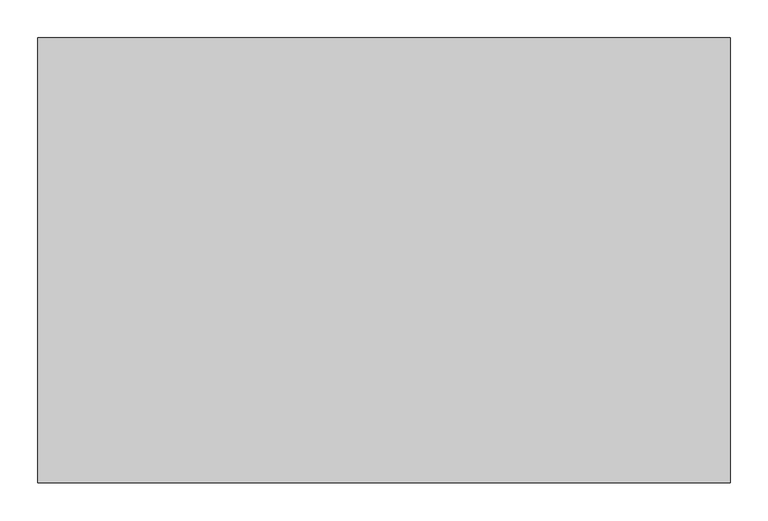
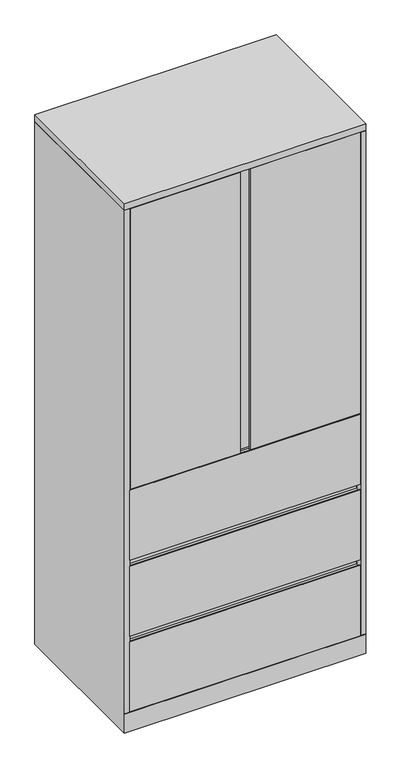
"""IFC4 building model written with IfcOpenShell, lengths in millimetres: furniture geometry, Steelcase - Universal Storage - Cabinet - Combination - Flush Steel : 83 1/2H - 3 Drawers - 23 1/8D x 36W."""

from ifc_helpers import new_model, si_unit, frame, origin, place, context, project, spatial, polyline, outline, extrude, faceted_brep, source, transform, mapped, element, save


def furniture_ee38e996(model_context):
    return source(origin(), model_context, "Body", "SolidModel", [
        extrude(outline(polyline([(21.8068168, -561.975866), (893.572, -561.975866), (893.572, -587.502), (476.25, -587.502), (476.25, -583.185482), (489.4189152, -583.185482), (489.4189152, -568.3258781), (438.15, -568.3258781), (438.15, -587.502), (21.8068168, -587.502), (21.8068168, -561.975866)])), frame((0.0, 0.0, 968.756), z_axis=(0.0, 0.0, 1.0), x_axis=(1.0, 0.0, 0.0)), (0.0, 0.0, 1.0), 1125.22),
        extrude(outline(polyline([(914.4, 0.0), (914.4, -587.502), (0.0, -587.502), (0.0, 0.0), (914.4, 0.0)])), frame((0.0, 0.0, 2095.4999516), z_axis=(0.0, 0.0, 1.0), x_axis=(1.0, 0.0, 0.0)), (0.0, 0.0, 1.0), 25.4000484),
        extrude(outline(polyline([(889.0000242, -25.4000008), (889.0000242, -560.4518674), (25.4000008, -560.4518674), (25.4000008, -25.4000008), (889.0000242, -25.4000008)])), frame((0.0, 0.0, 1875.1550484), z_axis=(0.0, 0.0, 1.0), x_axis=(1.0, 0.0, 0.0)), (0.0, 0.0, 1.0), 22.2249516),
        extrude(outline(polyline([(889.0000242, -25.4000008), (889.0000242, -560.4518674), (25.4000008, -560.4518674), (25.4000008, -25.4000008), (889.0000242, -25.4000008)])), frame((0.0, 0.0, 1571.8790484), z_axis=(0.0, 0.0, 1.0), x_axis=(1.0, 0.0, 0.0)), (0.0, 0.0, 1.0), 22.2249516),
        extrude(outline(polyline([(-587.502, 358.7750484), (-584.3262491, 358.7750484), (-584.3262491, 349.2500484), (-561.975866, 349.2500484), (-561.975866, 381.0), (-560.4518674, 381.0), (-560.4518674, 349.2500484), (-560.4518674, 77.724), (-587.502, 77.724), (-587.502, 358.7750484)])), frame((20.8280006, 0.0, 0.0), z_axis=(1.0, 0.0, 0.0), x_axis=(0.0, 1.0, 0.0)), (0.0, 0.0, 1.0), 872.7439994),
        extrude(outline(polyline([(889.0000242, -25.4000008), (889.0000242, -560.4518674), (25.4000008, -560.4518674), (25.4000008, -25.4000008), (889.0000242, -25.4000008)])), frame((0.0, 0.0, 358.7750484), z_axis=(0.0, 0.0, 1.0), x_axis=(1.0, 0.0, 0.0)), (0.0, 0.0, 1.0), 22.2249516),
        extrude(outline(polyline([(889.0000242, -25.4000008), (889.0000242, -560.4518674), (25.4000008, -560.4518674), (25.4000008, -25.4000008), (889.0000242, -25.4000008)])), frame((0.0, 0.0, 1268.6030484), z_axis=(0.0, 0.0, 1.0), x_axis=(1.0, 0.0, 0.0)), (0.0, 0.0, 1.0), 22.2249516),
        extrude(outline(polyline([(-587.502, 965.3270484), (-584.3262491, 965.3270484), (-584.3262491, 955.8020484), (-561.975866, 955.8020484), (-561.975866, 987.552), (-560.4518674, 987.552), (-560.4518674, 955.8020484), (-560.4518674, 684.276), (-587.502, 684.276), (-587.502, 965.3270484)])), frame((20.8280006, 0.0, 0.0), z_axis=(1.0, 0.0, 0.0), x_axis=(0.0, 1.0, 0.0)), (0.0, 0.0, 1.0), 872.7439994),
        extrude(outline(polyline([(889.0000242, -25.4000008), (889.0000242, -560.4518674), (25.4000008, -560.4518674), (25.4000008, -25.4000008), (889.0000242, -25.4000008)])), frame((0.0, 0.0, 965.3270484), z_axis=(0.0, 0.0, 1.0), x_axis=(1.0, 0.0, 0.0)), (0.0, 0.0, 1.0), 22.2249516),
        extrude(outline(polyline([(-587.502, 662.0510484), (-584.3262491, 662.0510484), (-584.3262491, 652.5260484), (-561.975866, 652.5260484), (-561.975866, 684.276), (-560.4518674, 684.276), (-560.4518674, 652.5260484), (-560.4518674, 381.0), (-587.502, 381.0), (-587.502, 662.0510484)])), frame((20.8280006, 0.0, 0.0), z_axis=(1.0, 0.0, 0.0), x_axis=(0.0, 1.0, 0.0)), (0.0, 0.0, 1.0), 872.7439994),
        extrude(outline(polyline([(889.0000242, -25.4000008), (889.0000242, -560.4518674), (25.4000008, -560.4518674), (25.4000008, -25.4000008), (889.0000242, -25.4000008)])), frame((0.0, 0.0, 662.0510484), z_axis=(0.0, 0.0, 1.0), x_axis=(1.0, 0.0, 0.0)), (0.0, 0.0, 1.0), 22.2249516),
        faceted_brep([(914.4, 0.0, 0.0), (914.4, -587.502, 0.0), (0.0, -587.502, 0.0), (0.0, 0.0, 0.0), (0.0, 0.0, 2093.976), (914.4, 0.0, 2093.976), (0.0, -587.502, 76.2), (0.0, -587.502, 77.724), (0.0, -587.502, 2093.976), (914.4, -587.502, 76.2), (914.4, -587.502, 2093.976), (914.4, -587.502, 77.724), (889.0000242, -25.4000008, 2093.976), (889.0000242, -560.4518674, 2093.976), (893.572, -560.4518674, 2093.976), (893.572, -561.9758781, 2093.976), (895.096, -561.9758781, 2093.976), (895.096, -587.502, 2093.976), (19.304, -587.502, 2093.976), (19.304, -561.975866, 2093.976), (20.8280006, -561.975866, 2093.976), (20.8280006, -560.4518674, 2093.976), (25.4000008, -560.4518674, 2093.976), (25.4000008, -25.4000008, 2093.976), (19.304, -587.502, 77.724), (19.304, -568.198, 77.724), (895.096, -587.502, 77.724), (895.096, -568.0718418, 77.724), (889.0000242, -25.4000008, 77.724), (889.0000242, -560.4518674, 77.724), (893.572, -560.4518674, 77.724), (893.572, -561.9758781, 77.724), (895.096, -561.9758781, 77.724), (19.304, -561.975866, 77.724), (20.8280006, -561.975866, 77.724), (20.8280006, -560.4518674, 77.724), (25.4000008, -560.4518674, 77.724), (25.4000008, -25.4000008, 77.724), (25.526134, -561.975866, 77.724), (889.0000242, -561.975866, 77.724)], [[[0, 1, 2, 3]], [[0, 3, 4, 5]], [[4, 3, 2, 6, 7, 8]], [[2, 1, 9, 6]], [[1, 0, 5, 10, 11, 9]], [[12, 13, 14, 15, 16, 17, 10, 5, 4, 8, 18, 19, 20, 21, 22, 23]], [[24, 7, 25]], [[11, 26, 27]], [[13, 12, 28, 29]], [[14, 13, 29, 30]], [[15, 14, 30, 31]], [[16, 15, 31, 32]], [[17, 16, 32, 27, 26]], [[10, 17, 26, 11]], [[18, 8, 7, 24]], [[19, 18, 24, 25, 33]], [[20, 19, 33, 34]], [[21, 20, 34, 35]], [[22, 21, 35, 36]], [[23, 22, 36, 37]], [[12, 23, 37, 28]], [[38, 39, 27, 32, 31, 30, 29, 28, 37, 36, 35, 34, 33, 25]], [[7, 6, 38, 25]], [[39, 38, 6, 9]], [[39, 9, 11, 27]]]),
    ])


if __name__ == "__main__":
    model = new_model("IFC4")
    model_context = context("Model", 3, world=origin())
    ifc_project = project(units=[si_unit("LENGTHUNIT", "METRE", prefix="MILLI")], contexts=[model_context])
    site = spatial("IfcSite", under=ifc_project)
    building = spatial("IfcBuilding", under=site)
    placement = place(None, origin())
    furniture_shape = furniture_ee38e996(model_context)
    element("IfcFurniture", 1, ObjectType="Steelcase - Universal Storage - Cabinet - Combination - Flush Steel : 83 1/2H - 3 Drawers - 23 1/8D x 36W", at=placement, inside=building, context=model_context, shape_type="MappedRepresentation", body=[
        mapped(furniture_shape, transform((0.0, 0.0, 0.0), x_axis=(1.0, 0.0, 0.0), y_axis=(0.0, 1.0, 0.0), z_axis=(0.0, 0.0, 1.0))),
    ])
    save(model, "model.ifc")
